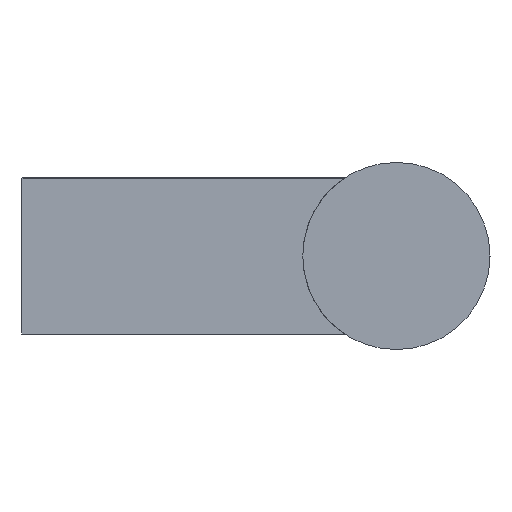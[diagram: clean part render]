
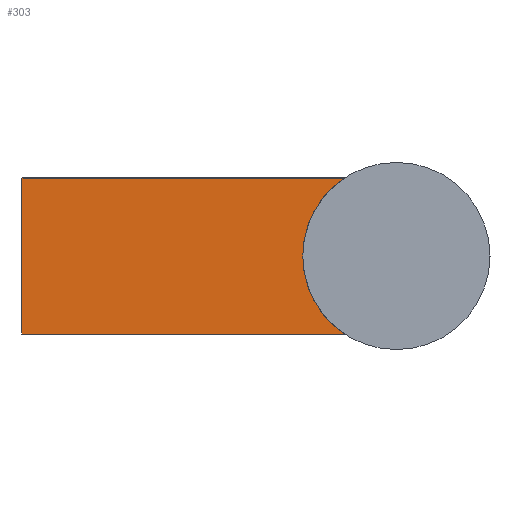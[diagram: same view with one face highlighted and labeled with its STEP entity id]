
A CAD part, left-side view. The second image highlights one B-rep face of the part: STEP entity #303.
In plain terms, the highlighted planar face has unit normal (-1, 0, 0).
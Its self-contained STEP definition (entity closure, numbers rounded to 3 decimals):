
#139 = VERTEX_POINT( '', #357 );
#185 = VERTEX_POINT( '', #409 );
#211 = EDGE_CURVE( '', #243, #185, #438, .T. );
#213 = VERTEX_POINT( '', #440 );
#215 = EDGE_CURVE( '', #213, #243, #442, .T. );
#243 = VERTEX_POINT( '', #473 );
#257 = EDGE_CURVE( '', #267, #139, #491, .T. );
#267 = VERTEX_POINT( '', #502 );
#299 = EDGE_CURVE( '', #185, #139, #537, .T. );
#303 = ADVANCED_FACE( '', ( #541 ), #542, .T. );
#311 = EDGE_CURVE( '', #267, #213, #550, .T. );
#357 = CARTESIAN_POINT( '', ( -11.999, -20.683, -5. ) );
#409 = CARTESIAN_POINT( '', ( -11.999, -18., 0. ) );
#438 = CIRCLE( '', #699, 6. );
#440 = CARTESIAN_POINT( '', ( -11.999, 0., 5. ) );
#442 = LINE( '', #704, #705 );
#473 = CARTESIAN_POINT( '', ( -11.999, -20.683, 5. ) );
#491 = LINE( '', #764, #765 );
#502 = CARTESIAN_POINT( '', ( -11.999, 0., -5. ) );
#537 = CIRCLE( '', #830, 6. );
#541 = FACE_OUTER_BOUND( '', #836, .T. );
#542 = PLANE( '', #837 );
#550 = LINE( '', #848, #849 );
#699 = AXIS2_PLACEMENT_3D( '', #972, #973, #974 );
#704 = CARTESIAN_POINT( '', ( -11.999, 0., 5. ) );
#705 = VECTOR( '', #975, 1. );
#764 = CARTESIAN_POINT( '', ( -11.999, 0., -5. ) );
#765 = VECTOR( '', #1055, 1. );
#830 = AXIS2_PLACEMENT_3D( '', #1107, #1108, #1109 );
#836 = EDGE_LOOP( '', ( #1112, #1113, #1114, #1115, #1116 ) );
#837 = AXIS2_PLACEMENT_3D( '', #1117, #1118, #1119 );
#848 = CARTESIAN_POINT( '', ( -11.999, 0., -5. ) );
#849 = VECTOR( '', #1121, 1. );
#972 = CARTESIAN_POINT( '', ( -11.999, -24., 0. ) );
#973 = DIRECTION( '', ( -1., 0., 0. ) );
#974 = DIRECTION( '', ( 0., -1., 0. ) );
#975 = DIRECTION( '', ( 0., -1., 0. ) );
#1055 = DIRECTION( '', ( 0., -1., 0. ) );
#1107 = CARTESIAN_POINT( '', ( -11.999, -24., 0. ) );
#1108 = DIRECTION( '', ( -1., 0., 0. ) );
#1109 = DIRECTION( '', ( 0., -1., 0. ) );
#1112 = ORIENTED_EDGE( '', *, *, #211, .F. );
#1113 = ORIENTED_EDGE( '', *, *, #215, .F. );
#1114 = ORIENTED_EDGE( '', *, *, #311, .F. );
#1115 = ORIENTED_EDGE( '', *, *, #257, .T. );
#1116 = ORIENTED_EDGE( '', *, *, #299, .F. );
#1117 = CARTESIAN_POINT( '', ( -11.999, 0., -5. ) );
#1118 = DIRECTION( '', ( -1., 0., 0. ) );
#1119 = DIRECTION( '', ( 0., 0., -1. ) );
#1121 = DIRECTION( '', ( 0., 0., 1. ) );
